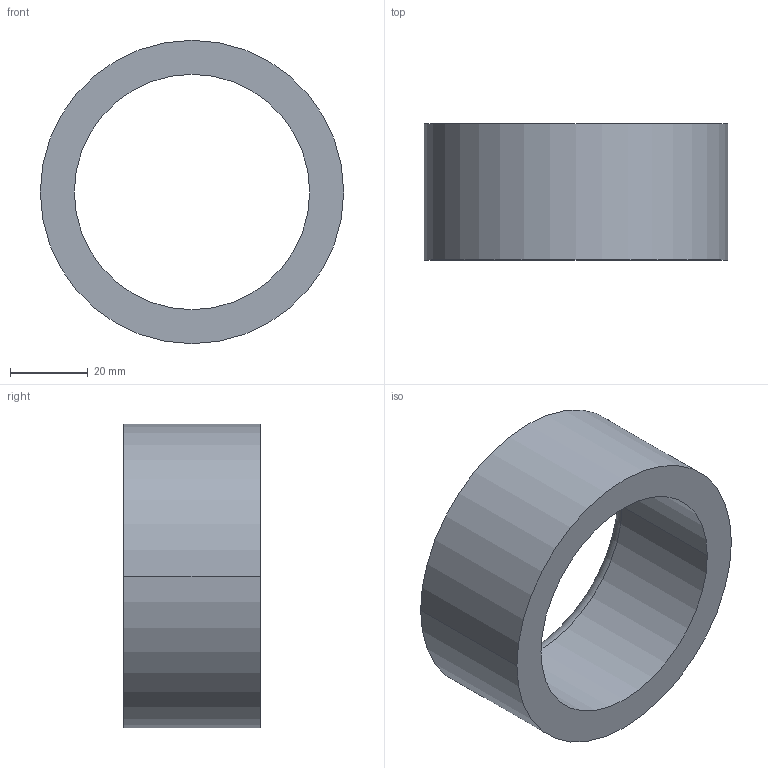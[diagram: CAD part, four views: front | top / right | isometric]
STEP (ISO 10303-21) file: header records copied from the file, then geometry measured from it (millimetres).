
FILE_DESCRIPTION (( 'STEP AP203' ), '1' );
FILE_NAME ('30800.WPP78M60.5.step', '2019-01-23T23:04:07', ( '' ), ( '' ), 'SwSTEP 2.0', 'SolidWorks 2017', '' );
FILE_SCHEMA (( 'CONFIG_CONTROL_DESIGN' ));
Length unit declared in the file: millimetre
Products named in the file (1): 30800.WPP78M60.5
Bounding box: 78 x 35 x 78 mm (x, y, z)
Volume: 65954.4 mm3; surface area: 18716.9 mm2
Topology: 1 solids, 1 shells, 8 faces, 16 edges, 10 vertices
Faces by surface type: cylinder 4, torus 2, plane 2
Entity records: 297 total; most frequent: DIRECTION 46, CARTESIAN_POINT 35, ORIENTED_EDGE 32, AXIS2_PLACEMENT_3D 21, EDGE_CURVE 16, CIRCLE 12, VERTEX_POINT 10, EDGE_LOOP 10
